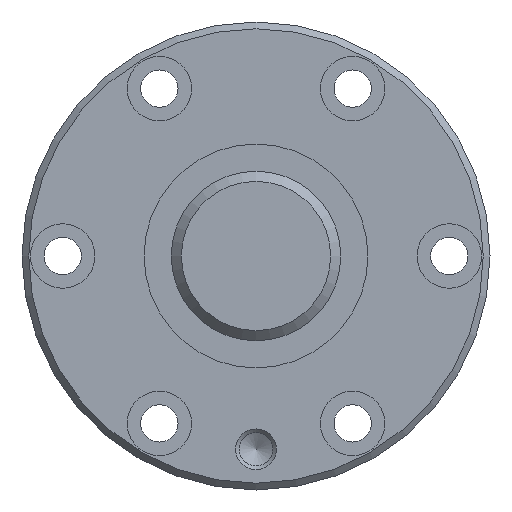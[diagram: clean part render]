
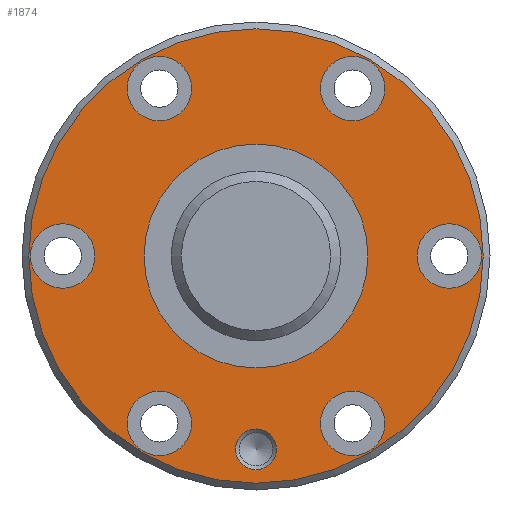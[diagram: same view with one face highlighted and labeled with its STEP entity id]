
A CAD part, left-side view. The second image highlights one B-rep face of the part: STEP entity #1874.
In plain terms, the highlighted planar face has unit normal (-1, 0, 0).
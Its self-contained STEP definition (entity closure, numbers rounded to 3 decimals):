
#452=ORIENTED_EDGE('',*,*,#936,.T.);
#453=ORIENTED_EDGE('',*,*,#937,.T.);
#454=ORIENTED_EDGE('',*,*,#938,.T.);
#455=ORIENTED_EDGE('',*,*,#939,.T.);
#456=ORIENTED_EDGE('',*,*,#940,.T.);
#457=ORIENTED_EDGE('',*,*,#941,.T.);
#458=ORIENTED_EDGE('',*,*,#942,.T.);
#459=ORIENTED_EDGE('',*,*,#943,.T.);
#460=ORIENTED_EDGE('',*,*,#944,.F.);
#936=EDGE_CURVE('',#1179,#1179,#1337,.T.);
#937=EDGE_CURVE('',#1180,#1180,#1338,.T.);
#938=EDGE_CURVE('',#1181,#1181,#1339,.T.);
#939=EDGE_CURVE('',#1182,#1182,#1340,.T.);
#940=EDGE_CURVE('',#1183,#1183,#1341,.T.);
#941=EDGE_CURVE('',#1184,#1184,#1342,.T.);
#942=EDGE_CURVE('',#1185,#1185,#1343,.T.);
#943=EDGE_CURVE('',#1186,#1186,#1344,.T.);
#944=EDGE_CURVE('',#1187,#1187,#1345,.T.);
#1179=VERTEX_POINT('',#2945);
#1180=VERTEX_POINT('',#2947);
#1181=VERTEX_POINT('',#2949);
#1182=VERTEX_POINT('',#2951);
#1183=VERTEX_POINT('',#2953);
#1184=VERTEX_POINT('',#2955);
#1185=VERTEX_POINT('',#2957);
#1186=VERTEX_POINT('',#2959);
#1187=VERTEX_POINT('',#2961);
#1337=CIRCLE('',#2032,16.5);
#1338=CIRCLE('',#2033,4.75);
#1339=CIRCLE('',#2034,4.75);
#1340=CIRCLE('',#2035,3.);
#1341=CIRCLE('',#2036,4.75);
#1342=CIRCLE('',#2037,4.75);
#1343=CIRCLE('',#2038,4.75);
#1344=CIRCLE('',#2039,4.75);
#1345=CIRCLE('',#2040,33.5);
#1433=EDGE_LOOP('',(#452));
#1434=EDGE_LOOP('',(#453));
#1435=EDGE_LOOP('',(#454));
#1436=EDGE_LOOP('',(#455));
#1437=EDGE_LOOP('',(#456));
#1438=EDGE_LOOP('',(#457));
#1439=EDGE_LOOP('',(#458));
#1440=EDGE_LOOP('',(#459));
#1441=EDGE_LOOP('',(#460));
#1621=FACE_BOUND('',#1433,.T.);
#1622=FACE_BOUND('',#1434,.T.);
#1623=FACE_BOUND('',#1435,.T.);
#1624=FACE_BOUND('',#1436,.T.);
#1625=FACE_BOUND('',#1437,.T.);
#1626=FACE_BOUND('',#1438,.T.);
#1627=FACE_BOUND('',#1439,.T.);
#1628=FACE_BOUND('',#1440,.T.);
#1629=FACE_BOUND('',#1441,.T.);
#1800=PLANE('',#2031);
#1874=ADVANCED_FACE('',(#1621,#1622,#1623,#1624,#1625,#1626,#1627,#1628,
#1629),#1800,.T.);
#2031=AXIS2_PLACEMENT_3D('',#2943,#2296,#2297);
#2032=AXIS2_PLACEMENT_3D('',#2944,#2298,#2299);
#2033=AXIS2_PLACEMENT_3D('',#2946,#2300,#2301);
#2034=AXIS2_PLACEMENT_3D('',#2948,#2302,#2303);
#2035=AXIS2_PLACEMENT_3D('',#2950,#2304,#2305);
#2036=AXIS2_PLACEMENT_3D('',#2952,#2306,#2307);
#2037=AXIS2_PLACEMENT_3D('',#2954,#2308,#2309);
#2038=AXIS2_PLACEMENT_3D('',#2956,#2310,#2311);
#2039=AXIS2_PLACEMENT_3D('',#2958,#2312,#2313);
#2040=AXIS2_PLACEMENT_3D('',#2960,#2314,#2315);
#2296=DIRECTION('',(-1.,0.,0.));
#2297=DIRECTION('',(0.,0.,1.));
#2298=DIRECTION('',(1.,0.,0.));
#2299=DIRECTION('',(0.,0.,-1.));
#2300=DIRECTION('',(1.,0.,0.));
#2301=DIRECTION('',(0.,0.,-1.));
#2302=DIRECTION('',(1.,0.,0.));
#2303=DIRECTION('',(0.,0.,-1.));
#2304=DIRECTION('',(1.,0.,0.));
#2305=DIRECTION('',(0.,0.,-1.));
#2306=DIRECTION('',(1.,0.,0.));
#2307=DIRECTION('',(0.,0.,-1.));
#2308=DIRECTION('',(1.,0.,0.));
#2309=DIRECTION('',(0.,0.,-1.));
#2310=DIRECTION('',(1.,0.,0.));
#2311=DIRECTION('',(0.,0.,-1.));
#2312=DIRECTION('',(1.,0.,0.));
#2313=DIRECTION('',(0.,0.,-1.));
#2314=DIRECTION('',(1.,0.,0.));
#2315=DIRECTION('',(0.,0.,-1.));
#2943=CARTESIAN_POINT('',(0.,33.5,0.));
#2944=CARTESIAN_POINT('',(0.,0.,0.));
#2945=CARTESIAN_POINT('',(0.,0.,-16.5));
#2946=CARTESIAN_POINT('',(0.,-24.682,-14.25));
#2947=CARTESIAN_POINT('',(0.,-24.682,-19.));
#2948=CARTESIAN_POINT('',(0.,24.682,14.25));
#2949=CARTESIAN_POINT('',(0.,24.682,9.5));
#2950=CARTESIAN_POINT('',(0.,-28.5,0.));
#2951=CARTESIAN_POINT('',(0.,-28.5,-3.));
#2952=CARTESIAN_POINT('',(0.,0.,28.5));
#2953=CARTESIAN_POINT('',(0.,0.,23.75));
#2954=CARTESIAN_POINT('',(0.,-24.682,14.25));
#2955=CARTESIAN_POINT('',(0.,-24.682,9.5));
#2956=CARTESIAN_POINT('',(0.,0.,-28.5));
#2957=CARTESIAN_POINT('',(0.,0.,-33.25));
#2958=CARTESIAN_POINT('',(0.,24.682,-14.25));
#2959=CARTESIAN_POINT('',(0.,24.682,-19.));
#2960=CARTESIAN_POINT('',(0.,0.,0.));
#2961=CARTESIAN_POINT('',(0.,0.,-33.5));
